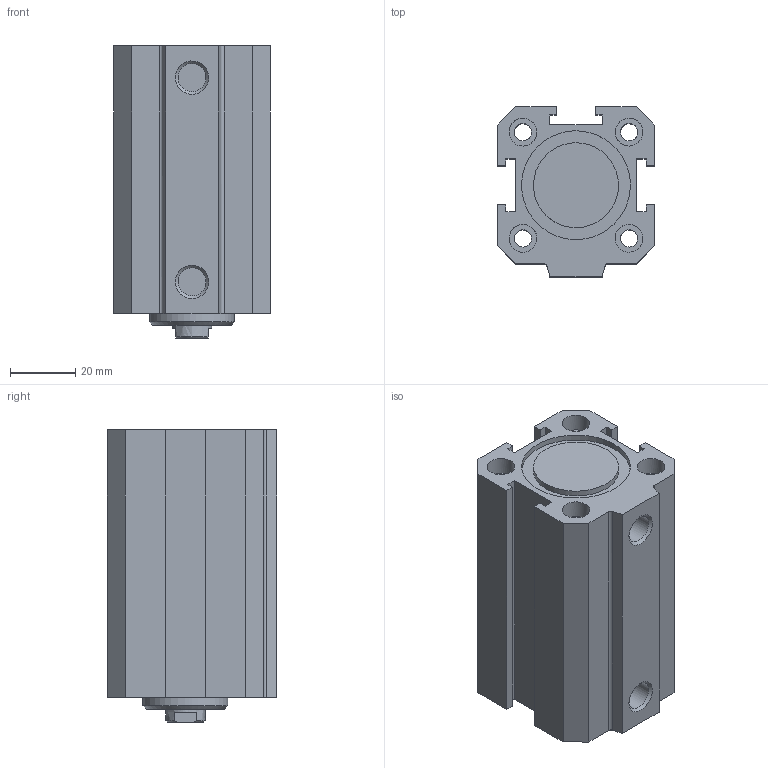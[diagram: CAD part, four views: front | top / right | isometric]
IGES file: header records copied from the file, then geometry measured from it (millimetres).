
Global section: file name: 1511_32_0045; native system: Autodesk Inventor 2014; preprocessor: unknown; author: A. Manieri; date: 20160824.113440; units: millimetre
Bounding box: 48 x 52 x 89.5 mm (x, y, z)
Volume: 130096.9 mm3; surface area: 44411.4 mm2
Topology: 2 solids, 2 shells, 93 faces, 237 edges, 166 vertices
Faces by surface type: bspline 93
